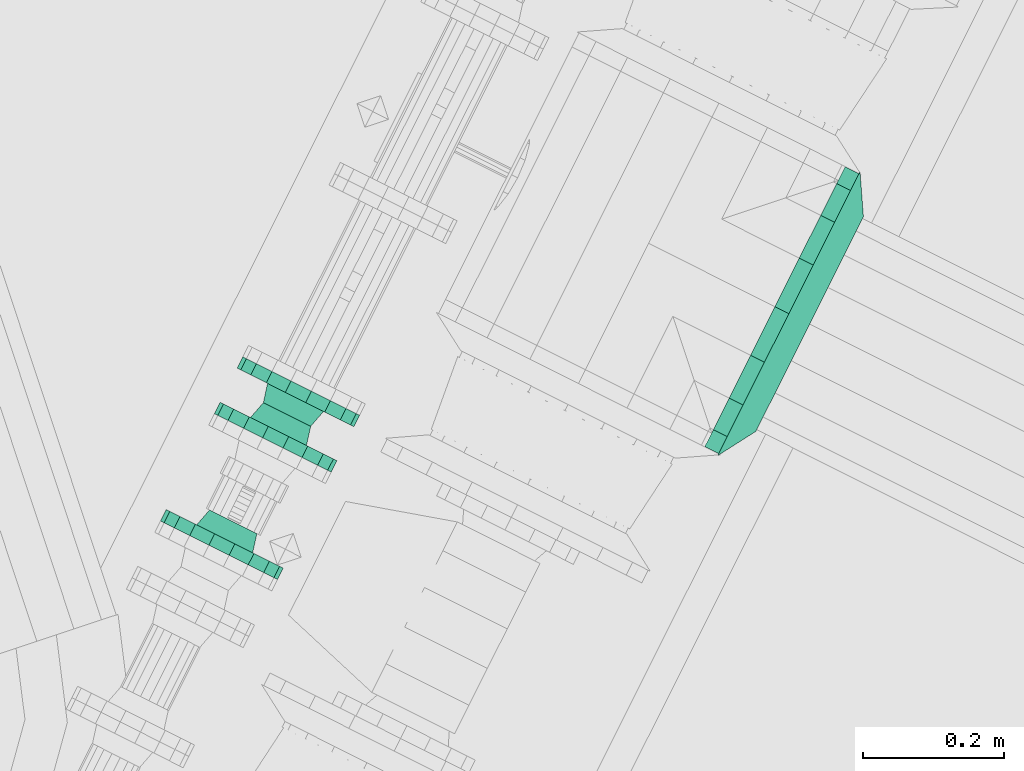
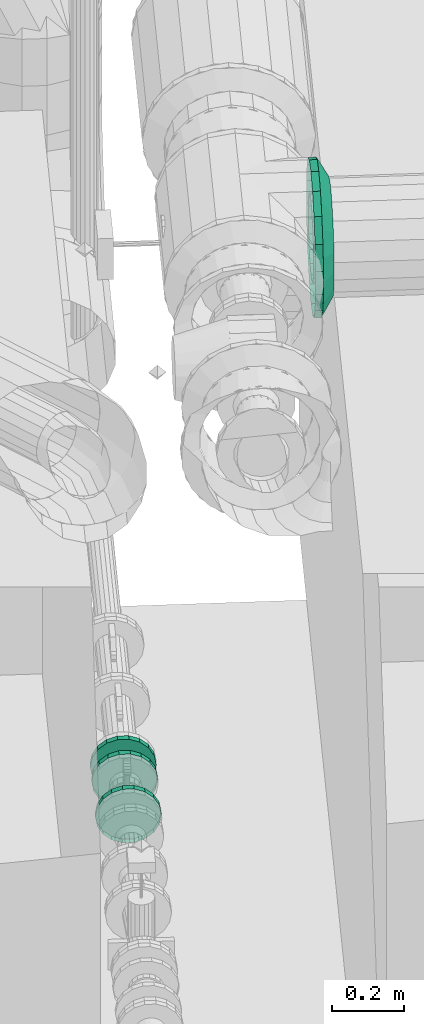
# One storey, part 74 of 206: 4 flow fittings.
"""IFC2X3 building model written with IfcOpenShell, lengths in metres."""

from ifc_helpers import new_model, si_unit, derived_unit, direction, frame, origin, place, context, subcontext, project, spatial, face_set, surface_model, source, transform, mapped, material, type_object, type_shapes, element, save


model = new_model("IFC2X3")

# Units and contexts
model_context = context("Model", 3, precision=5.2338327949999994e-05, world=origin(), true_north=direction((0.0, 1.0)))
body_context = subcontext(model_context, "Body", "Model", "MODEL_VIEW")
ifc_project = project(units=[si_unit("LENGTHUNIT", "METRE"), si_unit("AREAUNIT", "SQUARE_METRE"), si_unit("VOLUMEUNIT", "CUBIC_METRE"), si_unit("MASSUNIT", "GRAM", prefix="KILO"), si_unit("PLANEANGLEUNIT", "RADIAN"), derived_unit("THERMALTRANSMITTANCEUNIT", [(si_unit("MASSUNIT", "GRAM", prefix="KILO"), 1), (si_unit("THERMODYNAMICTEMPERATUREUNIT", "KELVIN"), -1), (si_unit("TIMEUNIT", "SECOND"), -3)])], contexts=[model_context])

# Site, building, storey
site_placement = place(None, frame((0.0, 0.0, 0.0), z_axis=(0.0, 0.0, 1.0), x_axis=(0.8939966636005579, -0.4480736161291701, 0.0)))
site = spatial("IfcSite", under=ifc_project, at=site_placement, Name="Default", CompositionType="ELEMENT")
building_placement = place(site_placement, origin())
building = spatial("IfcBuilding", under=site, at=building_placement, CompositionType="ELEMENT")
storey_placement = place(building_placement, origin())
storey = spatial("IfcBuildingStorey", under=building, at=storey_placement, Name="Erdgeschoss", CompositionType="ELEMENT", Elevation=0.0)

# Flow fittings
ifc_material_1 = material(Name="IfcSurfaceStyle #1741")
distribution_element_type_1 = type_object("IfcDistributionElementType", Name="Flansch 341197:Flansch 341197", material=ifc_material_1)
shared_shape_1 = source(origin(), body_context, "Body", "SurfaceModel", [
    surface_model("IfcFaceBasedSurfaceModel", [(25.639855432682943, 6.658961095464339, 2.479), (25.639855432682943, 6.616208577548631, 2.471461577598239), (25.661855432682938, 6.616208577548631, 2.471461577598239), (25.661855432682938, 6.658961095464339, 2.479), (25.639855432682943, 6.578612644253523, 2.449755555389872), (25.661855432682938, 6.578612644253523, 2.449755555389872), (25.639855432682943, 6.550707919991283, 2.416500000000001), (25.661855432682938, 6.550707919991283, 2.416500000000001), (25.639855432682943, 6.535860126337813, 2.3757060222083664), (25.661855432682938, 6.535860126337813, 2.3757060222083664), (25.639855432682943, 6.535860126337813, 2.3322939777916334), (25.661855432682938, 6.535860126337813, 2.3322939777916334), (25.639855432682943, 6.550707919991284, 2.2915), (25.661855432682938, 6.550707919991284, 2.2915), (25.639855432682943, 6.578612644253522, 2.2582444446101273), (25.661855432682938, 6.578612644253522, 2.2582444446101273), (25.639855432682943, 6.616208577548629, 2.2365384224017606), (25.661855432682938, 6.616208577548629, 2.2365384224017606), (25.639855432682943, 6.6589610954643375, 2.2290000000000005), (25.661855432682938, 6.6589610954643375, 2.2290000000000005), (25.639855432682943, 6.701713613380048, 2.236538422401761), (25.661855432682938, 6.701713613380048, 2.236538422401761), (25.639855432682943, 6.739309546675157, 2.258244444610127), (25.661855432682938, 6.739309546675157, 2.258244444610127), (25.639855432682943, 6.7672142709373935, 2.2915), (25.661855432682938, 6.7672142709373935, 2.2915), (25.639855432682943, 6.782062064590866, 2.332293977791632), (25.661855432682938, 6.782062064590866, 2.332293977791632), (25.639855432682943, 6.782062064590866, 2.3757060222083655), (25.661855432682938, 6.782062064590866, 2.3757060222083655), (25.639855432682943, 6.767214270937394, 2.4165), (25.661855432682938, 6.767214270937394, 2.4165), (25.639855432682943, 6.739309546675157, 2.4497555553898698), (25.661855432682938, 6.739309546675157, 2.4497555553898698), (25.639855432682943, 6.7017136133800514, 2.471461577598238), (25.661855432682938, 6.7017136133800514, 2.471461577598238), (25.661855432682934, 6.658961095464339, 2.354), (25.661855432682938, 6.580961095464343, 2.353999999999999), (25.661855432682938, 6.585665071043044, 2.327322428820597), (25.69485543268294, 6.593323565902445, 2.330109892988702), (25.69485543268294, 6.5891110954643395, 2.3539999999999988), (25.661855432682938, 6.599209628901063, 2.303862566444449), (25.69485543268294, 6.60545289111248, 2.3091012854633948), (25.661855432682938, 6.619961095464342, 2.2864500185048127), (25.69485543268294, 6.6240360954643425, 2.2935081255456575), (25.661855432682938, 6.645416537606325, 2.2771849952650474), (25.69485543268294, 6.646831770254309, 2.285211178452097), (25.661855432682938, 6.672505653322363, 2.2771849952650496), (25.69485543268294, 6.6710904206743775, 2.2852111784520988), (25.661855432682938, 6.697961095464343, 2.286450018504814), (25.69485543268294, 6.693886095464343, 2.293508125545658), (25.661855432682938, 6.718712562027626, 2.303862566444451), (25.69485543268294, 6.712469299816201, 2.3091012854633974), (25.661855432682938, 6.732257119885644, 2.3273224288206), (25.69485543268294, 6.724598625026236, 2.3301098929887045), (25.661855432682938, 6.736961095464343, 2.354000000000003), (25.69485543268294, 6.728811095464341, 2.354000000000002), (25.661855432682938, 6.7322571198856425, 2.380677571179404), (25.69485543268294, 6.724598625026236, 2.3778901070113), (25.661855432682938, 6.718712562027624, 2.4041374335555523), (25.69485543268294, 6.712469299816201, 2.398898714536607), (25.661855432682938, 6.69796109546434, 2.421549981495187), (25.69485543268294, 6.69388609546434, 2.4144918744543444), (25.661855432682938, 6.672505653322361, 2.4308150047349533), (25.69485543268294, 6.671090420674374, 2.422788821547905), (25.661855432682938, 6.645416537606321, 2.430815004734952), (25.69485543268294, 6.646831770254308, 2.4227888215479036), (25.661855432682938, 6.619961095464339, 2.4215499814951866), (25.69485543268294, 6.624036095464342, 2.414491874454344), (25.661855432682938, 6.59920962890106, 2.4041374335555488), (25.69485543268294, 6.605452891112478, 2.3988987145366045), (25.661855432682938, 6.5856650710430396, 2.3806775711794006), (25.69485543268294, 6.593323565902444, 2.377890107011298), (25.639855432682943, 6.65896109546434, 2.579), (25.639855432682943, 6.582006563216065, 2.5654308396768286), (25.661855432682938, 6.582006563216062, 2.565430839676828), (25.661855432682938, 6.6589610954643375, 2.5789999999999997), (25.639855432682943, 6.514333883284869, 2.5263599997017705), (25.661855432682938, 6.514333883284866, 2.5263599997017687), (25.639855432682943, 6.464105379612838, 2.4665000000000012), (25.661855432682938, 6.464105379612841, 2.466499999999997), (25.639855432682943, 6.437379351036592, 2.393070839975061), (25.661855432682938, 6.4373793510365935, 2.393070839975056), (25.639855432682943, 6.437379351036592, 2.314929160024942), (25.661855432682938, 6.437379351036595, 2.314929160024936), (25.639855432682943, 6.464105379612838, 2.2415000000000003), (25.661855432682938, 6.464105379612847, 2.2414999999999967), (25.639855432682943, 6.5143338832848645, 2.1816400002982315), (25.661855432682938, 6.514333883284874, 2.181640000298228), (25.639855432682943, 6.582006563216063, 2.1425691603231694), (25.661855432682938, 6.58200656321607, 2.1425691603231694), (25.639855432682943, 6.658961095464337, 2.128999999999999), (25.661855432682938, 6.658961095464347, 2.1290000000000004), (25.639855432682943, 6.735915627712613, 2.1425691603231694), (25.661855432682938, 6.735915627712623, 2.1425691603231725), (25.639855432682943, 6.803588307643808, 2.18164000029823), (25.661855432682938, 6.803588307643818, 2.1816400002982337), (25.639855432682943, 6.853816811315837, 2.241499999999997), (25.661855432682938, 6.853816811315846, 2.241500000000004), (25.639855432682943, 6.880542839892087, 2.3149291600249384), (25.661855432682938, 6.880542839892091, 2.3149291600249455), (25.639855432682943, 6.880542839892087, 2.3930708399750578), (25.661855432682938, 6.88054283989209, 2.3930708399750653), (25.639855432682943, 6.853816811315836, 2.466499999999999), (25.661855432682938, 6.8538168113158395, 2.4665000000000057), (25.639855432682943, 6.803588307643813, 2.5263599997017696), (25.661855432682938, 6.803588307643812, 2.5263599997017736), (25.639855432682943, 6.735915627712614, 2.565430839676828), (25.661855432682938, 6.735915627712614, 2.5654308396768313), (25.661855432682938, 6.433961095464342, 2.353999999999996), (25.661855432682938, 6.4475302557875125, 2.2770454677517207), (25.69485543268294, 6.499354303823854, 2.2959078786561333), (25.69485543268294, 6.489111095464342, 2.353999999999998), (25.661855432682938, 6.486601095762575, 2.209372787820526), (25.69485543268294, 6.528848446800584, 2.24482252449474), (25.661855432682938, 6.546461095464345, 2.1591442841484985), (25.69485543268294, 6.574036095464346, 2.2069055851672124), (25.661855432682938, 6.619890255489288, 2.132418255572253), (25.69485543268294, 6.629466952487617, 2.1867304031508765), (25.661855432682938, 6.698031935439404, 2.1324182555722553), (25.69485543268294, 6.688455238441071, 2.186730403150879), (25.661855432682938, 6.771461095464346, 2.1591442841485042), (25.69485543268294, 6.743886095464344, 2.206905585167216), (25.661855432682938, 6.831321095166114, 2.2093727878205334), (25.69485543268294, 6.789073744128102, 2.244822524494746), (25.661855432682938, 6.870391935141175, 2.277045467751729), (25.69485543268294, 6.818567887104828, 2.2959078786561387), (25.661855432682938, 6.8839610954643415, 2.3540000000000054), (25.69485543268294, 6.828811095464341, 2.3540000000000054), (25.661855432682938, 6.870391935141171, 2.430954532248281), (25.69485543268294, 6.818567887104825, 2.412092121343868), (25.661855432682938, 6.831321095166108, 2.4986272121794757), (25.69485543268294, 6.789073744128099, 2.4631774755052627), (25.661855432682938, 6.771461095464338, 2.5488557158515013), (25.69485543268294, 6.743886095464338, 2.5010944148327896), (25.661855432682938, 6.6980319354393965, 2.5755817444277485), (25.69485543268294, 6.688455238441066, 2.521269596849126), (25.661855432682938, 6.6198902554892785, 2.5755817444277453), (25.69485543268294, 6.629466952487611, 2.521269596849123), (25.661855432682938, 6.5464610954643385, 2.5488557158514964), (25.69485543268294, 6.574036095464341, 2.501094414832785), (25.661855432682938, 6.486601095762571, 2.4986272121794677), (25.69485543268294, 6.528848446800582, 2.463177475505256), (25.661855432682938, 6.447530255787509, 2.430954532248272), (25.69485543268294, 6.4993543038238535, 2.4120921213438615)], [face_set([[[0, 1, 2, 3]], [[1, 4, 5, 2]], [[4, 6, 7, 5]], [[6, 8, 9, 7]], [[8, 10, 11, 9]], [[10, 12, 13, 11]], [[12, 14, 15, 13]], [[14, 16, 17, 15]], [[16, 18, 19, 17]], [[18, 20, 21, 19]], [[20, 22, 23, 21]], [[22, 24, 25, 23]], [[24, 26, 27, 25]], [[26, 28, 29, 27]], [[28, 30, 31, 29]], [[30, 32, 33, 31]], [[32, 34, 35, 33]], [[34, 0, 3, 35]], [[36, 35, 3]], [[36, 33, 35]], [[36, 31, 33]], [[36, 29, 31]], [[36, 27, 29]], [[36, 25, 27]], [[36, 23, 25]], [[36, 21, 23]], [[36, 19, 21]], [[36, 17, 19]], [[36, 15, 17]], [[36, 13, 15]], [[36, 11, 13]], [[36, 9, 11]], [[36, 7, 9]], [[36, 5, 7]], [[36, 2, 5]], [[36, 3, 2]], [[37, 38, 39, 40]], [[38, 41, 42, 39]], [[41, 43, 44, 42]], [[43, 45, 46, 44]], [[45, 47, 48, 46]], [[47, 49, 50, 48]], [[49, 51, 52, 50]], [[51, 53, 54, 52]], [[53, 55, 56, 54]], [[55, 57, 58, 56]], [[57, 59, 60, 58]], [[59, 61, 62, 60]], [[61, 63, 64, 62]], [[63, 65, 66, 64]], [[65, 67, 68, 66]], [[67, 69, 70, 68]], [[69, 71, 72, 70]], [[71, 37, 40, 72]], [[73, 74, 75, 76]], [[74, 77, 78, 75]], [[77, 79, 80, 78]], [[79, 81, 82, 80]], [[81, 83, 84, 82]], [[83, 85, 86, 84]], [[85, 87, 88, 86]], [[87, 89, 90, 88]], [[89, 91, 92, 90]], [[91, 93, 94, 92]], [[93, 95, 96, 94]], [[95, 97, 98, 96]], [[97, 99, 100, 98]], [[99, 101, 102, 100]], [[101, 103, 104, 102]], [[103, 105, 106, 104]], [[105, 107, 108, 106]], [[107, 73, 76, 108]], [[109, 110, 111, 112]], [[110, 113, 114, 111]], [[113, 115, 116, 114]], [[115, 117, 118, 116]], [[117, 119, 120, 118]], [[119, 121, 122, 120]], [[121, 123, 124, 122]], [[123, 125, 126, 124]], [[125, 127, 128, 126]], [[127, 129, 130, 128]], [[129, 131, 132, 130]], [[131, 133, 134, 132]], [[133, 135, 136, 134]], [[135, 137, 138, 136]], [[137, 139, 140, 138]], [[139, 141, 142, 140]], [[141, 143, 144, 142]], [[143, 109, 112, 144]]])]),
])
type_shapes(distribution_element_type_1, [shared_shape_1])
flow_fitting_1_placement = place(storey_placement, origin())
element("IfcFlowFitting", 1, at=flow_fitting_1_placement, inside=storey, type_object=distribution_element_type_1, material=ifc_material_1, Name="Flansch", ObjectType="Flansch", context=body_context, shape_type="MappedRepresentation", body=[
    mapped(shared_shape_1, transform((0.0, 0.0, 0.0), scale=1.0)),
])
ifc_material_2 = material(Name="IfcSurfaceStyle #352577")
distribution_element_type_2 = type_object("IfcDistributionElementType", Name="Flansch 359647:Flansch 359647", material=ifc_material_2)
shared_shape_2 = source(origin(), body_context, "Body", "SurfaceModel", [
    surface_model("IfcFaceBasedSurfaceModel", [(24.998140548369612, 6.25795839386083, 0.8699999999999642), (25.00371898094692, 6.25795839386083, 0.8383631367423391), (25.00371898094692, 6.239958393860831, 0.8383631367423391), (24.998140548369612, 6.239958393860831, 0.8699999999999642), (25.01978143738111, 6.25795839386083, 0.810542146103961), (25.01978143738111, 6.239958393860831, 0.810542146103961), (25.044390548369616, 6.25795839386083, 0.7898926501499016), (25.044390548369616, 6.239958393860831, 0.7898926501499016), (25.07457809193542, 6.25795839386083, 0.7789052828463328), (25.07457809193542, 6.239958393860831, 0.7789052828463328), (25.10670300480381, 6.25795839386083, 0.7789052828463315), (25.10670300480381, 6.239958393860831, 0.7789052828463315), (25.136890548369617, 6.25795839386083, 0.7898926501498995), (25.136890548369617, 6.239958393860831, 0.7898926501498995), (25.161499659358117, 6.25795839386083, 0.8105421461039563), (25.161499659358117, 6.239958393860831, 0.8105421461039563), (25.17756211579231, 6.25795839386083, 0.8383631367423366), (25.17756211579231, 6.239958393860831, 0.8383631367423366), (25.183140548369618, 6.25795839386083, 0.8699999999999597), (25.183140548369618, 6.239958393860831, 0.8699999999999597), (25.17756211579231, 6.25795839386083, 0.9016368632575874), (25.17756211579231, 6.239958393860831, 0.9016368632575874), (25.161499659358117, 6.25795839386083, 0.9294578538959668), (25.161499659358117, 6.239958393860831, 0.9294578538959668), (25.13689054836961, 6.25795839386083, 0.9501073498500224), (25.13689054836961, 6.239958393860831, 0.9501073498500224), (25.10670300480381, 6.25795839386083, 0.9610947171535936), (25.10670300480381, 6.239958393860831, 0.9610947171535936), (25.07457809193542, 6.25795839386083, 0.9610947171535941), (25.07457809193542, 6.239958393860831, 0.9610947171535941), (25.044390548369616, 6.25795839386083, 0.9501073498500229), (25.044390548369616, 6.239958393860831, 0.9501073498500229), (25.01978143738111, 6.25795839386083, 0.9294578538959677), (25.01978143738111, 6.239958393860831, 0.9294578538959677), (25.003718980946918, 6.25795839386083, 0.9016368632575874), (25.003718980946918, 6.239958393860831, 0.9016368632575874), (25.090640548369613, 6.239958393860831, 0.8699999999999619), (25.090640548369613, 6.239958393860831, 0.8249999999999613), (25.106031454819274, 6.239958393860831, 0.8277138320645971), (25.10365441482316, 6.21295839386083, 0.8342446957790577), (25.090640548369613, 6.21295839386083, 0.8319499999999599), (25.119565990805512, 6.239958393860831, 0.8355280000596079), (25.11509861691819, 6.21295839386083, 0.8408520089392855), (25.129611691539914, 6.239958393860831, 0.8474999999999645), (25.123592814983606, 6.21295839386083, 0.8509749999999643), (25.13495689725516, 6.239958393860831, 0.8621858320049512), (25.128112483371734, 6.21295839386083, 0.8633926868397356), (25.13495689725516, 6.239958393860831, 0.8778141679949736), (25.12811248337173, 6.21295839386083, 0.8766073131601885), (25.129611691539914, 6.239958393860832, 0.8924999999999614), (25.123592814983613, 6.2129583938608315, 0.889024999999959), (25.119565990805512, 6.239958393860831, 0.9044719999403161), (25.115098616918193, 6.21295839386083, 0.8991479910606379), (25.10603145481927, 6.239958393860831, 0.9122861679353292), (25.10365441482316, 6.21295839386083, 0.9057553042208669), (25.090640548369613, 6.239958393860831, 0.9149999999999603), (25.090640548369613, 6.21295839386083, 0.9080499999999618), (25.075249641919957, 6.239958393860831, 0.9122861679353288), (25.07762668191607, 6.21295839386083, 0.9057553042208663), (25.061715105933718, 6.23995839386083, 0.9044719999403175), (25.06618247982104, 6.212958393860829, 0.8991479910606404), (25.051669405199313, 6.239958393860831, 0.8924999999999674), (25.05768828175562, 6.21295839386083, 0.8890249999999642), (25.046324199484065, 6.239958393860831, 0.8778141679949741), (25.053168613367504, 6.21295839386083, 0.8766073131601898), (25.046324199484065, 6.239958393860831, 0.8621858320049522), (25.0531686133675, 6.21295839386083, 0.8633926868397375), (25.051669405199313, 6.239958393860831, 0.8474999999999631), (25.05768828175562, 6.21295839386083, 0.850974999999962), (25.061715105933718, 6.239958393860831, 0.8355280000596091), (25.06618247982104, 6.21295839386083, 0.8408520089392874), (25.075249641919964, 6.239958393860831, 0.8277138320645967), (25.077626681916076, 6.21295839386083, 0.8342446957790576)], [face_set([[[0, 1, 2, 3]], [[1, 4, 5, 2]], [[4, 6, 7, 5]], [[6, 8, 9, 7]], [[8, 10, 11, 9]], [[10, 12, 13, 11]], [[12, 14, 15, 13]], [[14, 16, 17, 15]], [[16, 18, 19, 17]], [[18, 20, 21, 19]], [[20, 22, 23, 21]], [[22, 24, 25, 23]], [[24, 26, 27, 25]], [[26, 28, 29, 27]], [[28, 30, 31, 29]], [[30, 32, 33, 31]], [[32, 34, 35, 33]], [[34, 0, 3, 35]], [[36, 35, 3]], [[36, 33, 35]], [[36, 31, 33]], [[36, 29, 31]], [[36, 27, 29]], [[36, 25, 27]], [[36, 23, 25]], [[36, 21, 23]], [[36, 19, 21]], [[36, 17, 19]], [[36, 15, 17]], [[36, 13, 15]], [[36, 11, 13]], [[36, 9, 11]], [[36, 7, 9]], [[36, 5, 7]], [[36, 2, 5]], [[36, 3, 2]], [[37, 38, 39, 40]], [[38, 41, 42, 39]], [[41, 43, 44, 42]], [[43, 45, 46, 44]], [[45, 47, 48, 46]], [[47, 49, 50, 48]], [[49, 51, 52, 50]], [[51, 53, 54, 52]], [[53, 55, 56, 54]], [[55, 57, 58, 56]], [[57, 59, 60, 58]], [[59, 61, 62, 60]], [[61, 63, 64, 62]], [[63, 65, 66, 64]], [[65, 67, 68, 66]], [[67, 69, 70, 68]], [[69, 71, 72, 70]], [[71, 37, 40, 72]]])]),
])
type_shapes(distribution_element_type_2, [shared_shape_2])
flow_fitting_2_placement = place(storey_placement, origin())
element("IfcFlowFitting", 2, at=flow_fitting_2_placement, inside=storey, type_object=distribution_element_type_2, material=ifc_material_2, Name="Flansch", ObjectType="Flansch", context=body_context, shape_type="MappedRepresentation", body=[
    mapped(shared_shape_2, transform((0.0, 0.0, 0.0), scale=1.0)),
])
distribution_element_type_3 = type_object("IfcDistributionElementType", Name="Flansch 359720:Flansch 359720", material=ifc_material_2)
shared_shape_3 = source(origin(), body_context, "Body", "SurfaceModel", [
    surface_model("IfcFaceBasedSurfaceModel", [(24.998140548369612, 6.167958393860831, 0.8699999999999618), (25.00371898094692, 6.167958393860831, 0.9016368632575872), (25.00371898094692, 6.18595839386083, 0.9016368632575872), (24.998140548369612, 6.18595839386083, 0.8699999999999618), (25.01978143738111, 6.167958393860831, 0.9294578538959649), (25.01978143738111, 6.18595839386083, 0.9294578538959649), (25.044390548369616, 6.167958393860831, 0.950107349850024), (25.044390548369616, 6.18595839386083, 0.950107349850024), (25.07457809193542, 6.167958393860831, 0.961094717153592), (25.07457809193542, 6.18595839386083, 0.961094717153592), (25.10670300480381, 6.167958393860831, 0.9610947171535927), (25.10670300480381, 6.18595839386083, 0.9610947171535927), (25.136890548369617, 6.167958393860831, 0.9501073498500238), (25.136890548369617, 6.18595839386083, 0.9501073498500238), (25.161499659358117, 6.167958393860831, 0.9294578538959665), (25.161499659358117, 6.18595839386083, 0.9294578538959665), (25.17756211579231, 6.167958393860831, 0.9016368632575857), (25.17756211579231, 6.18595839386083, 0.9016368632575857), (25.183140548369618, 6.167958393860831, 0.8699999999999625), (25.183140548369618, 6.18595839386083, 0.8699999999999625), (25.17756211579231, 6.167958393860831, 0.8383631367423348), (25.17756211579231, 6.18595839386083, 0.8383631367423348), (25.161499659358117, 6.167958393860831, 0.8105421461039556), (25.161499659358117, 6.18595839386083, 0.8105421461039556), (25.13689054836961, 6.167958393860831, 0.7898926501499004), (25.13689054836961, 6.18595839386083, 0.7898926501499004), (25.106703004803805, 6.167958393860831, 0.7789052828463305), (25.106703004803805, 6.18595839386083, 0.7789052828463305), (25.07457809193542, 6.167958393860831, 0.7789052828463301), (25.07457809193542, 6.18595839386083, 0.7789052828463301), (25.044390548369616, 6.167958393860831, 0.7898926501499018), (25.044390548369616, 6.18595839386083, 0.7898926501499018), (25.01978143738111, 6.167958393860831, 0.8105421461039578), (25.01978143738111, 6.18595839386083, 0.8105421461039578), (25.003718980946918, 6.167958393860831, 0.8383631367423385), (25.003718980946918, 6.18595839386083, 0.8383631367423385), (25.090640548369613, 6.18595839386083, 0.8699999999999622), (25.090640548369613, 6.18595839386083, 0.914999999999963), (25.106031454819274, 6.18595839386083, 0.9122861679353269), (25.10365441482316, 6.21295839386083, 0.9057553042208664), (25.090640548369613, 6.21295839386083, 0.9080499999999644), (25.119565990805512, 6.18595839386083, 0.9044719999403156), (25.11509861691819, 6.21295839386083, 0.8991479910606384), (25.129611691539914, 6.18595839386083, 0.892499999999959), (25.123592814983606, 6.21295839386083, 0.8890249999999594), (25.13495689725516, 6.18595839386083, 0.87781416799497), (25.12811248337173, 6.21295839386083, 0.876607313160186), (25.13495689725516, 6.18595839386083, 0.8621858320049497), (25.12811248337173, 6.21295839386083, 0.8633926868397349), (25.12961169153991, 6.18595839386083, 0.8474999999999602), (25.12359281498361, 6.21295839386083, 0.8509749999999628), (25.11956599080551, 6.18595839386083, 0.8355280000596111), (25.11509861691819, 6.21295839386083, 0.8408520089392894), (25.10603145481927, 6.18595839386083, 0.8277138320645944), (25.10365441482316, 6.21295839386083, 0.8342446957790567), (25.090640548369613, 6.18595839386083, 0.8249999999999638), (25.090640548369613, 6.21295839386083, 0.8319499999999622), (25.075249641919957, 6.18595839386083, 0.8277138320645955), (25.07762668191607, 6.21295839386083, 0.8342446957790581), (25.061715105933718, 6.1859583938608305, 0.835528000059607), (25.06618247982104, 6.2129583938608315, 0.8408520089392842), (25.051669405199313, 6.1859583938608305, 0.8474999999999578), (25.05768828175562, 6.2129583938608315, 0.8509749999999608), (25.046324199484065, 6.18595839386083, 0.862185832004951), (25.053168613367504, 6.21295839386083, 0.863392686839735), (25.046324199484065, 6.18595839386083, 0.877814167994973), (25.0531686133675, 6.21295839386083, 0.8766073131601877), (25.051669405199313, 6.18595839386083, 0.8924999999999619), (25.05768828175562, 6.21295839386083, 0.8890249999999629), (25.061715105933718, 6.18595839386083, 0.9044719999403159), (25.06618247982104, 6.21295839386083, 0.8991479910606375), (25.075249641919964, 6.18595839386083, 0.9122861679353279), (25.077626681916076, 6.21295839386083, 0.9057553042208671)], [face_set([[[0, 1, 2, 3]], [[1, 4, 5, 2]], [[4, 6, 7, 5]], [[6, 8, 9, 7]], [[8, 10, 11, 9]], [[10, 12, 13, 11]], [[12, 14, 15, 13]], [[14, 16, 17, 15]], [[16, 18, 19, 17]], [[18, 20, 21, 19]], [[20, 22, 23, 21]], [[22, 24, 25, 23]], [[24, 26, 27, 25]], [[26, 28, 29, 27]], [[28, 30, 31, 29]], [[30, 32, 33, 31]], [[32, 34, 35, 33]], [[34, 0, 3, 35]], [[36, 35, 3]], [[36, 33, 35]], [[36, 31, 33]], [[36, 29, 31]], [[36, 27, 29]], [[36, 25, 27]], [[36, 23, 25]], [[36, 21, 23]], [[36, 19, 21]], [[36, 17, 19]], [[36, 15, 17]], [[36, 13, 15]], [[36, 11, 13]], [[36, 9, 11]], [[36, 7, 9]], [[36, 5, 7]], [[36, 2, 5]], [[36, 3, 2]], [[37, 38, 39, 40]], [[38, 41, 42, 39]], [[41, 43, 44, 42]], [[43, 45, 46, 44]], [[45, 47, 48, 46]], [[47, 49, 50, 48]], [[49, 51, 52, 50]], [[51, 53, 54, 52]], [[53, 55, 56, 54]], [[55, 57, 58, 56]], [[57, 59, 60, 58]], [[59, 61, 62, 60]], [[61, 63, 64, 62]], [[63, 65, 66, 64]], [[65, 67, 68, 66]], [[67, 69, 70, 68]], [[69, 71, 72, 70]], [[71, 37, 40, 72]]])]),
])
type_shapes(distribution_element_type_3, [shared_shape_3])
flow_fitting_3_placement = place(storey_placement, origin())
element("IfcFlowFitting", 3, at=flow_fitting_3_placement, inside=storey, type_object=distribution_element_type_3, material=ifc_material_2, Name="Flansch", ObjectType="Flansch", context=body_context, shape_type="MappedRepresentation", body=[
    mapped(shared_shape_3, transform((0.0, 0.0, 0.0), scale=1.0)),
])
distribution_element_type_4 = type_object("IfcDistributionElementType", Name="Flansch 360782:Flansch 360782", material=ifc_material_2)
shared_shape_4 = source(origin(), body_context, "Body", "SurfaceModel", [
    surface_model("IfcFaceBasedSurfaceModel", [(24.998140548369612, 5.99795839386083, 0.8699999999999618), (25.00371898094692, 5.99795839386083, 0.9016368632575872), (25.00371898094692, 6.0159583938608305, 0.9016368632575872), (24.998140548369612, 6.0159583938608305, 0.8699999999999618), (25.01978143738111, 5.99795839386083, 0.9294578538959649), (25.01978143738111, 6.0159583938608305, 0.9294578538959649), (25.044390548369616, 5.99795839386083, 0.950107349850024), (25.044390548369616, 6.0159583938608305, 0.950107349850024), (25.07457809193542, 5.99795839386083, 0.961094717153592), (25.07457809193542, 6.0159583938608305, 0.961094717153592), (25.10670300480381, 5.99795839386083, 0.9610947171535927), (25.10670300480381, 6.0159583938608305, 0.9610947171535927), (25.136890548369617, 5.99795839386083, 0.9501073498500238), (25.136890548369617, 6.0159583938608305, 0.9501073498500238), (25.161499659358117, 5.99795839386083, 0.9294578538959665), (25.161499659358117, 6.0159583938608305, 0.9294578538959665), (25.17756211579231, 5.99795839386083, 0.9016368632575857), (25.17756211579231, 6.0159583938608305, 0.9016368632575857), (25.183140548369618, 5.99795839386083, 0.8699999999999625), (25.183140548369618, 6.0159583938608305, 0.8699999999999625), (25.17756211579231, 5.99795839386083, 0.8383631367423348), (25.17756211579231, 6.0159583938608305, 0.8383631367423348), (25.161499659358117, 5.99795839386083, 0.8105421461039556), (25.161499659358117, 6.0159583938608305, 0.8105421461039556), (25.13689054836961, 5.99795839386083, 0.7898926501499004), (25.13689054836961, 6.0159583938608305, 0.7898926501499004), (25.106703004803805, 5.99795839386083, 0.7789052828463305), (25.106703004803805, 6.0159583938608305, 0.7789052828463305), (25.07457809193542, 5.99795839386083, 0.7789052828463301), (25.07457809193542, 6.0159583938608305, 0.7789052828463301), (25.044390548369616, 5.99795839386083, 0.7898926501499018), (25.044390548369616, 6.0159583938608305, 0.7898926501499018), (25.01978143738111, 5.99795839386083, 0.8105421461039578), (25.01978143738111, 6.0159583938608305, 0.8105421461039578), (25.003718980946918, 5.99795839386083, 0.8383631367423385), (25.003718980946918, 6.0159583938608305, 0.8383631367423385), (25.090640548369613, 6.01595839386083, 0.8699999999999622), (25.090640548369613, 6.0159583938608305, 0.9149999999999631), (25.106031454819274, 6.0159583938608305, 0.9122861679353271), (25.10365441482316, 6.04295839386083, 0.9057553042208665), (25.090640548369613, 6.04295839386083, 0.9080499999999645), (25.119565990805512, 6.0159583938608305, 0.9044719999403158), (25.11509861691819, 6.04295839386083, 0.8991479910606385), (25.129611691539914, 6.0159583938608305, 0.892499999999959), (25.123592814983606, 6.04295839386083, 0.8890249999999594), (25.13495689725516, 6.0159583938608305, 0.8778141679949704), (25.12811248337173, 6.04295839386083, 0.8766073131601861), (25.13495689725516, 6.0159583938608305, 0.8621858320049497), (25.12811248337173, 6.04295839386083, 0.8633926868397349), (25.12961169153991, 6.0159583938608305, 0.8474999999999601), (25.12359281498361, 6.04295839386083, 0.8509749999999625), (25.119565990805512, 6.0159583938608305, 0.835528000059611), (25.11509861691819, 6.04295839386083, 0.8408520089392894), (25.10603145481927, 6.0159583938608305, 0.8277138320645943), (25.103654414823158, 6.04295839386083, 0.8342446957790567), (25.090640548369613, 6.0159583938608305, 0.8249999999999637), (25.090640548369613, 6.04295839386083, 0.8319499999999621), (25.075249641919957, 6.0159583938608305, 0.8277138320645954), (25.07762668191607, 6.04295839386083, 0.8342446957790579), (25.061715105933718, 6.015958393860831, 0.8355280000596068), (25.06618247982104, 6.042958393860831, 0.840852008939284), (25.051669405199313, 6.015958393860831, 0.8474999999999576), (25.05768828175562, 6.042958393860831, 0.8509749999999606), (25.046324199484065, 6.0159583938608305, 0.8621858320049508), (25.053168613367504, 6.04295839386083, 0.8633926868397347), (25.046324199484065, 6.0159583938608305, 0.877814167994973), (25.0531686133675, 6.04295839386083, 0.8766073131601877), (25.051669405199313, 6.0159583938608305, 0.8924999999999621), (25.05768828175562, 6.04295839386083, 0.8890249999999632), (25.061715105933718, 6.0159583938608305, 0.904471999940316), (25.06618247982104, 6.04295839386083, 0.8991479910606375), (25.075249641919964, 6.0159583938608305, 0.912286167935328), (25.077626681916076, 6.04295839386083, 0.9057553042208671)], [face_set([[[0, 1, 2, 3]], [[1, 4, 5, 2]], [[4, 6, 7, 5]], [[6, 8, 9, 7]], [[8, 10, 11, 9]], [[10, 12, 13, 11]], [[12, 14, 15, 13]], [[14, 16, 17, 15]], [[16, 18, 19, 17]], [[18, 20, 21, 19]], [[20, 22, 23, 21]], [[22, 24, 25, 23]], [[24, 26, 27, 25]], [[26, 28, 29, 27]], [[28, 30, 31, 29]], [[30, 32, 33, 31]], [[32, 34, 35, 33]], [[34, 0, 3, 35]], [[36, 35, 3]], [[36, 33, 35]], [[36, 31, 33]], [[36, 29, 31]], [[36, 27, 29]], [[36, 25, 27]], [[36, 23, 25]], [[36, 21, 23]], [[36, 19, 21]], [[36, 17, 19]], [[36, 15, 17]], [[36, 13, 15]], [[36, 11, 13]], [[36, 9, 11]], [[36, 7, 9]], [[36, 5, 7]], [[36, 2, 5]], [[36, 3, 2]], [[37, 38, 39, 40]], [[38, 41, 42, 39]], [[41, 43, 44, 42]], [[43, 45, 46, 44]], [[45, 47, 48, 46]], [[47, 49, 50, 48]], [[49, 51, 52, 50]], [[51, 53, 54, 52]], [[53, 55, 56, 54]], [[55, 57, 58, 56]], [[57, 59, 60, 58]], [[59, 61, 62, 60]], [[61, 63, 64, 62]], [[63, 65, 66, 64]], [[65, 67, 68, 66]], [[67, 69, 70, 68]], [[69, 71, 72, 70]], [[71, 37, 40, 72]]])]),
])
type_shapes(distribution_element_type_4, [shared_shape_4])
flow_fitting_4_placement = place(storey_placement, origin())
element("IfcFlowFitting", 4, at=flow_fitting_4_placement, inside=storey, type_object=distribution_element_type_4, material=ifc_material_2, Name="Flansch", ObjectType="Flansch", context=body_context, shape_type="MappedRepresentation", body=[
    mapped(shared_shape_4, transform((0.0, 0.0, 0.0), scale=1.0)),
])

save(model, "model.ifc")
